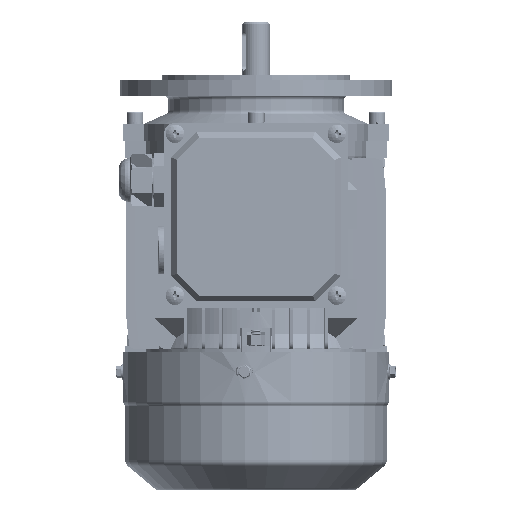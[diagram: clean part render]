
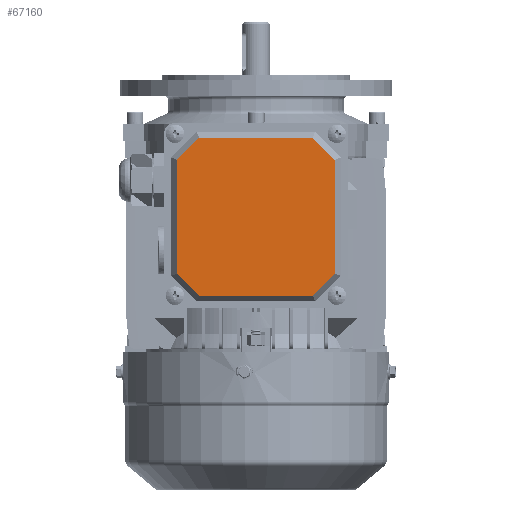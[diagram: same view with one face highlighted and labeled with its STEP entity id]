
A CAD part, left-side view. The second image highlights one B-rep face of the part: STEP entity #67160.
In plain terms, the highlighted planar face has unit normal (-1, 0, 0) as drawn and (0, 1, 0) by its records, which use the part's own axes.
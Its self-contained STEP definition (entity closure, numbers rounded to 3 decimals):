
#1264 = CARTESIAN_POINT ( 'NONE',  ( 34.825, 6., -34.825 ) ) ;
#3244 = EDGE_CURVE ( 'NONE', #120834, #42825, #54381, .T. ) ;
#3466 = ORIENTED_EDGE ( 'NONE', *, *, #130131, .T. ) ;
#4106 = VECTOR ( 'NONE', #11475, 1000. ) ;
#5509 = CARTESIAN_POINT ( 'NONE',  ( 34.825, 6., 34.825 ) ) ;
#9133 = CARTESIAN_POINT ( 'NONE',  ( -40.5, 6., 0. ) ) ;
#11475 = DIRECTION ( 'NONE',  ( -0.707, 0., -0.707 ) ) ;
#11994 = VECTOR ( 'NONE', #47642, 1000. ) ;
#15486 = CARTESIAN_POINT ( 'NONE',  ( -29.15, 6., -40.5 ) ) ;
#17548 = PLANE ( 'NONE',  #97837 ) ;
#17572 = ORIENTED_EDGE ( 'NONE', *, *, #3244, .T. ) ;
#17841 = LINE ( 'NONE', #9133, #122497 ) ;
#19971 = LINE ( 'NONE', #5509, #23163 ) ;
#22278 = EDGE_CURVE ( 'NONE', #78764, #99629, #67281, .T. ) ;
#23163 = VECTOR ( 'NONE', #127028, 1000. ) ;
#24784 = ORIENTED_EDGE ( 'NONE', *, *, #51850, .T. ) ;
#31111 = LINE ( 'NONE', #1264, #4106 ) ;
#33240 = CARTESIAN_POINT ( 'NONE',  ( 40.5, 6., -29.15 ) ) ;
#35805 = CARTESIAN_POINT ( 'NONE',  ( 40.5, 6., 29.15 ) ) ;
#36267 = EDGE_CURVE ( 'NONE', #48140, #61647, #45890, .T. ) ;
#37718 = CARTESIAN_POINT ( 'NONE',  ( 40.5, 6., 0. ) ) ;
#37821 = EDGE_CURVE ( 'NONE', #42825, #78764, #19971, .T. ) ;
#39492 = VECTOR ( 'NONE', #56384, 1000. ) ;
#41213 = DIRECTION ( 'NONE',  ( -0.707, 0., 0.707 ) ) ;
#41567 = ORIENTED_EDGE ( 'NONE', *, *, #22278, .T. ) ;
#41953 = DIRECTION ( 'NONE',  ( 1., 0., 0. ) ) ;
#42825 = VERTEX_POINT ( 'NONE', #79346 ) ;
#45890 = LINE ( 'NONE', #86474, #39492 ) ;
#47642 = DIRECTION ( 'NONE',  ( 0.707, 0., 0.707 ) ) ;
#48111 = DIRECTION ( 'NONE',  ( 0., 0., -1. ) ) ;
#48140 = VERTEX_POINT ( 'NONE', #115284 ) ;
#51850 = EDGE_CURVE ( 'NONE', #99629, #48140, #31111, .T. ) ;
#54381 = LINE ( 'NONE', #92466, #74916 ) ;
#54919 = CARTESIAN_POINT ( 'NONE',  ( -29.15, 6., 40.5 ) ) ;
#56384 = DIRECTION ( 'NONE',  ( -1., 0., 0. ) ) ;
#61149 = CARTESIAN_POINT ( 'NONE',  ( -34.825, 6., -34.825 ) ) ;
#61647 = VERTEX_POINT ( 'NONE', #15486 ) ;
#67160 = ADVANCED_FACE ( 'NONE', ( #129325 ), #17548, .F. ) ;
#67281 = LINE ( 'NONE', #37718, #94273 ) ;
#67388 = ORIENTED_EDGE ( 'NONE', *, *, #36267, .T. ) ;
#70985 = VECTOR ( 'NONE', #41213, 1000. ) ;
#72951 = EDGE_CURVE ( 'NONE', #61647, #98826, #98063, .T. ) ;
#74916 = VECTOR ( 'NONE', #41953, 1000. ) ;
#78612 = CARTESIAN_POINT ( 'NONE',  ( -34.825, 6., 34.825 ) ) ;
#78764 = VERTEX_POINT ( 'NONE', #35805 ) ;
#79346 = CARTESIAN_POINT ( 'NONE',  ( 29.15, 6., 40.5 ) ) ;
#79639 = EDGE_LOOP ( 'NONE', ( #93016, #41567, #24784, #67388, #113913, #106769, #3466, #17572 ) ) ;
#86474 = CARTESIAN_POINT ( 'NONE',  ( 0., 6., -40.5 ) ) ;
#91366 = EDGE_CURVE ( 'NONE', #98826, #99206, #17841, .T. ) ;
#92466 = CARTESIAN_POINT ( 'NONE',  ( 0., 6., 40.5 ) ) ;
#93016 = ORIENTED_EDGE ( 'NONE', *, *, #37821, .T. ) ;
#94273 = VECTOR ( 'NONE', #98504, 1000. ) ;
#97837 = AXIS2_PLACEMENT_3D ( 'NONE', #108009, #108866, #48111 ) ;
#98063 = LINE ( 'NONE', #61149, #70985 ) ;
#98504 = DIRECTION ( 'NONE',  ( 0., 0., -1. ) ) ;
#98826 = VERTEX_POINT ( 'NONE', #119496 ) ;
#99206 = VERTEX_POINT ( 'NONE', #116285 ) ;
#99629 = VERTEX_POINT ( 'NONE', #33240 ) ;
#100561 = DIRECTION ( 'NONE',  ( 0., 0., 1. ) ) ;
#106769 = ORIENTED_EDGE ( 'NONE', *, *, #91366, .T. ) ;
#108009 = CARTESIAN_POINT ( 'NONE',  ( 0., 6., 0. ) ) ;
#108866 = DIRECTION ( 'NONE',  ( 0., -1., 0. ) ) ;
#113913 = ORIENTED_EDGE ( 'NONE', *, *, #72951, .T. ) ;
#115284 = CARTESIAN_POINT ( 'NONE',  ( 29.15, 6., -40.5 ) ) ;
#116285 = CARTESIAN_POINT ( 'NONE',  ( -40.5, 6., 29.15 ) ) ;
#119496 = CARTESIAN_POINT ( 'NONE',  ( -40.5, 6., -29.15 ) ) ;
#120834 = VERTEX_POINT ( 'NONE', #54919 ) ;
#122497 = VECTOR ( 'NONE', #100561, 1000. ) ;
#126271 = LINE ( 'NONE', #78612, #11994 ) ;
#127028 = DIRECTION ( 'NONE',  ( 0.707, 0., -0.707 ) ) ;
#129325 = FACE_OUTER_BOUND ( 'NONE', #79639, .T. ) ;
#130131 = EDGE_CURVE ( 'NONE', #99206, #120834, #126271, .T. ) ;
